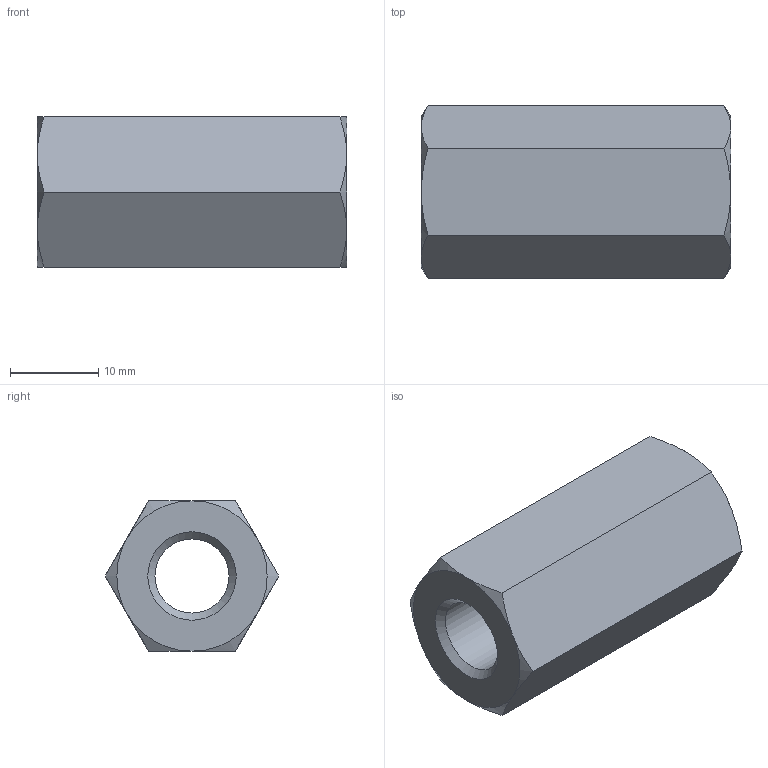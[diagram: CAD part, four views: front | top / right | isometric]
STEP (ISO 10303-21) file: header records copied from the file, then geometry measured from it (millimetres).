
FILE_DESCRIPTION( ( 'STEP AP203' ), '1' );
FILE_NAME( 'C:/Temp/Ganter_Step_05_03_2020/data/3_2/gn6220/gn6220_ni/Stainless Steel-Spacer GN 6220-NI-M10-35-A.stp', '2020-03-13T05:43:07', ( 'License CC BY-ND 4.0' ), ( 'CADENAS' ), ' ', 'PARTsolutions', ' ' );
FILE_SCHEMA( ( 'CONFIG_CONTROL_DESIGN' ) );
Length unit declared in the file: millimetre
Products named in the file (1): _Stainless Steel-Spacer GN 6220-NI-M10-35-A
Bounding box: 35 x 19.63 x 17 mm (x, y, z)
Volume: 6802.2 mm3; surface area: 3325.7 mm2
Topology: 1 solids, 1 shells, 23 faces, 49 edges, 28 vertices
Faces by surface type: cone 14, plane 8, cylinder 1
Full cylindrical faces by diameter (mm): 8.376 x1
Entity records: 728 total; most frequent: CARTESIAN_POINT 234, ORIENTED_EDGE 92, DIRECTION 86, EDGE_CURVE 46, AXIS2_PLACEMENT_3D 40, EDGE_LOOP 28, VERTEX_POINT 28, FACE_OUTER_BOUND 24
